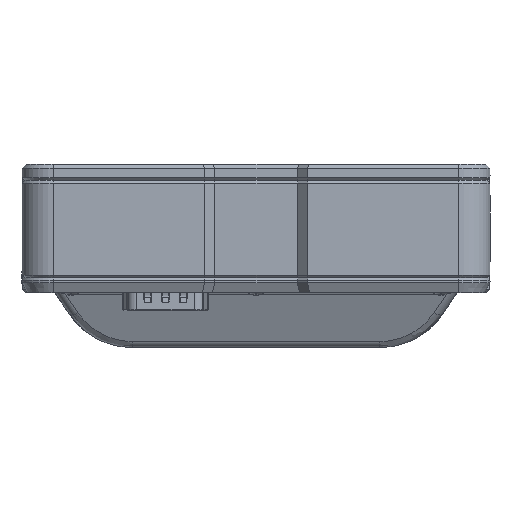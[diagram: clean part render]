
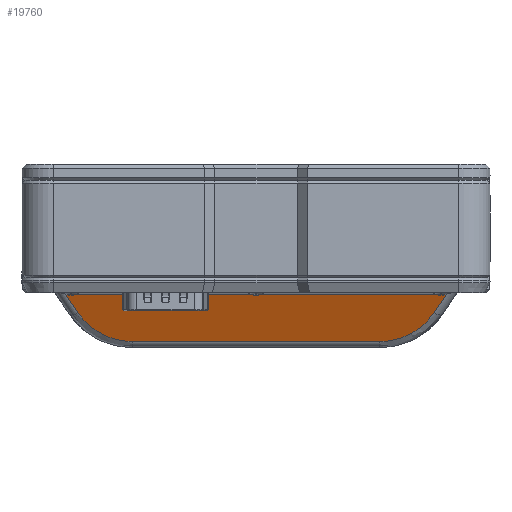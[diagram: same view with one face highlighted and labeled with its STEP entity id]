
A CAD part, left-side view. The second image highlights one B-rep face of the part: STEP entity #19760.
In plain terms, the highlighted planar face has unit normal (-0.921, 0, -0.39).
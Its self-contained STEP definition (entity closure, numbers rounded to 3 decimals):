
#818=ELLIPSE('',#21099,14.119,13.);
#819=ELLIPSE('',#21100,14.119,13.);
#2103=FACE_OUTER_BOUND('',#3364,.T.);
#3364=EDGE_LOOP('',(#13410,#13411,#13412,#13413,#13414,#13415));
#4790=LINE('',#29134,#6532);
#4791=LINE('',#29136,#6533);
#4792=LINE('',#29138,#6534);
#4793=LINE('',#29142,#6535);
#6532=VECTOR('',#23408,10.);
#6533=VECTOR('',#23409,10.);
#6534=VECTOR('',#23410,10.);
#6535=VECTOR('',#23413,10.);
#8253=VERTEX_POINT('',#29132);
#8254=VERTEX_POINT('',#29133);
#8255=VERTEX_POINT('',#29135);
#8256=VERTEX_POINT('',#29137);
#8257=VERTEX_POINT('',#29139);
#8258=VERTEX_POINT('',#29141);
#10184=EDGE_CURVE('',#8253,#8254,#4790,.T.);
#10185=EDGE_CURVE('',#8255,#8253,#4791,.T.);
#10186=EDGE_CURVE('',#8256,#8255,#4792,.T.);
#10187=EDGE_CURVE('',#8257,#8256,#818,.T.);
#10188=EDGE_CURVE('',#8258,#8257,#4793,.T.);
#10189=EDGE_CURVE('',#8254,#8258,#819,.T.);
#13410=ORIENTED_EDGE('',*,*,#10184,.F.);
#13411=ORIENTED_EDGE('',*,*,#10185,.F.);
#13412=ORIENTED_EDGE('',*,*,#10186,.F.);
#13413=ORIENTED_EDGE('',*,*,#10187,.F.);
#13414=ORIENTED_EDGE('',*,*,#10188,.F.);
#13415=ORIENTED_EDGE('',*,*,#10189,.F.);
#19103=PLANE('',#21098);
#19760=ADVANCED_FACE('',(#2103),#19103,.T.);
#21098=AXIS2_PLACEMENT_3D('',#29131,#23406,#23407);
#21099=AXIS2_PLACEMENT_3D('',#29140,#23411,#23412);
#21100=AXIS2_PLACEMENT_3D('',#29143,#23414,#23415);
#23406=DIRECTION('center_axis',(-0.921,0.,
-0.39));
#23407=DIRECTION('ref_axis',(-0.39,0.,0.921));
#23408=DIRECTION('',(0.331,0.53,-0.781));
#23409=DIRECTION('',(0.,-1.,0.));
#23410=DIRECTION('',(-0.331,0.53,0.781));
#23411=DIRECTION('center_axis',(0.921,0.,
0.39));
#23412=DIRECTION('ref_axis',(0.39,0.,-0.921));
#23413=DIRECTION('',(0.,1.,0.));
#23414=DIRECTION('center_axis',(0.921,0.,
0.39));
#23415=DIRECTION('ref_axis',(0.39,0.,-0.921));
#29131=CARTESIAN_POINT('Origin',(23.,57.75,-38.25));
#29132=CARTESIAN_POINT('',(21.017,40.214,-33.57));
#29133=CARTESIAN_POINT('',(22.566,42.693,-37.225));
#29134=CARTESIAN_POINT('',(32.342,58.335,-60.298));
#29135=CARTESIAN_POINT('',(21.017,115.786,-33.57));
#29136=CARTESIAN_POINT('',(21.017,67.875,-33.57));
#29137=CARTESIAN_POINT('',(22.566,113.307,-37.225));
#29138=CARTESIAN_POINT('',(35.707,92.282,-68.237));
#29139=CARTESIAN_POINT('',(24.983,102.547,-42.93));
#29140=CARTESIAN_POINT('Origin',(19.475,102.547,-29.93));
#29141=CARTESIAN_POINT('',(24.983,53.453,-42.93));
#29142=CARTESIAN_POINT('',(24.983,67.875,-42.93));
#29143=CARTESIAN_POINT('Origin',(19.475,53.453,-29.93));
